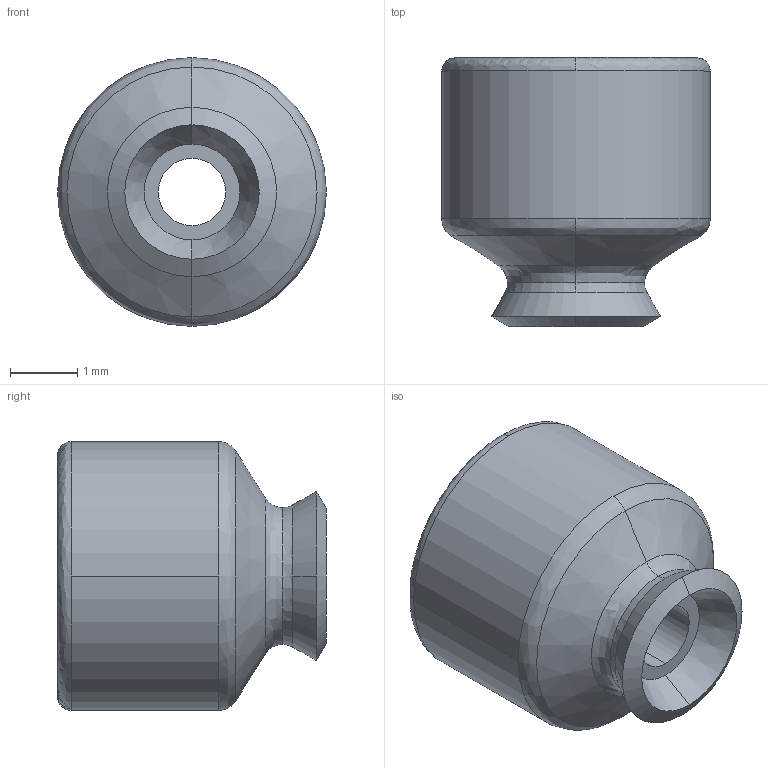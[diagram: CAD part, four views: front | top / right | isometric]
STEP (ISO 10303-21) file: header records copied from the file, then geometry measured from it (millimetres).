
FILE_DESCRIPTION (( 'STEP AP214' ), '1' );
FILE_NAME ('VS-PG2.STEP', '2019-11-13T07:36:26', ( '微软用户' ), ( '微软中国' ), 'SwSTEP 2.0', 'SolidWorks 2016', '' );
FILE_SCHEMA (( 'AUTOMOTIVE_DESIGN' ));
Length unit declared in the file: millimetre
Products named in the file (1): VS-PG2
Bounding box: 4 x 4 x 4 mm (x, y, z)
Volume: 26.2 mm3; surface area: 92.1 mm2
Topology: 1 solids, 1 shells, 34 faces, 76 edges, 46 vertices
Faces by surface type: bspline 14, cone 8, cylinder 8, plane 4
Entity records: 1486 total; most frequent: CARTESIAN_POINT 775, ORIENTED_EDGE 152, DIRECTION 134, EDGE_CURVE 76, AXIS2_PLACEMENT_3D 59, VERTEX_POINT 46, CIRCLE 38, EDGE_LOOP 38
